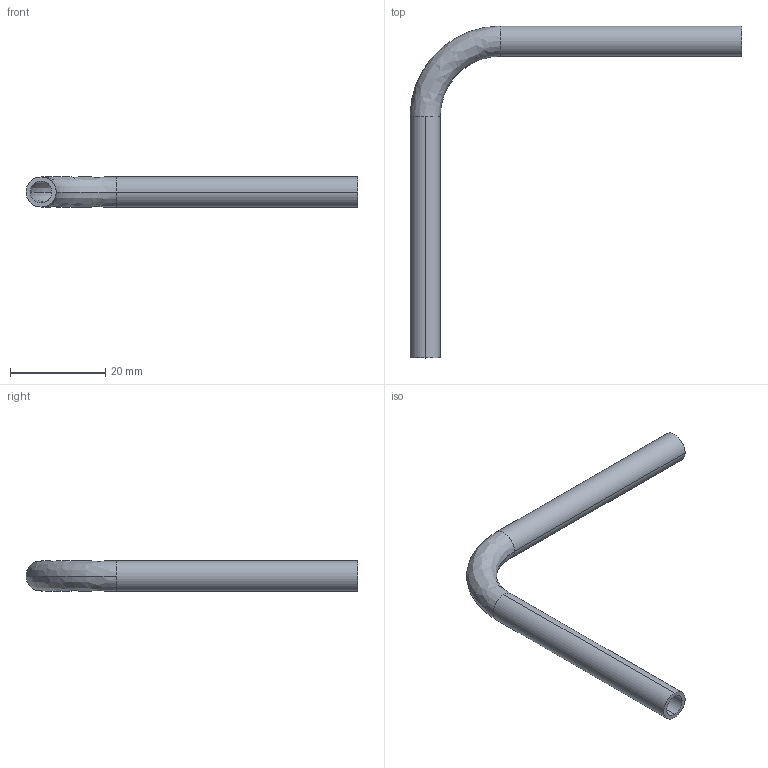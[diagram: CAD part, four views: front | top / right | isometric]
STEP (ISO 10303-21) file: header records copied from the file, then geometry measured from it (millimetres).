
FILE_DESCRIPTION (( 'STEP AP214' ), '1' );
FILE_NAME ('TE2S6L.25-.._.STEP', '2016-05-22T09:45:32', ( 'eran' ), ( '' ), 'SwSTEP 2.0', 'SolidWorks 2016', '' );
FILE_SCHEMA (( 'AUTOMOTIVE_DESIGN' ));
Length unit declared in the file: millimetre
Products named in the file (1): TE2S6L.25-.._
Bounding box: 69.88 x 69.88 x 6.35 mm (x, y, z)
Volume: 1932.3 mm3; surface area: 4372.9 mm2
Topology: 1 solids, 1 shells, 14 faces, 32 edges, 20 vertices
Faces by surface type: cylinder 8, bspline 4, plane 2
Entity records: 490 total; most frequent: CARTESIAN_POINT 127, DIRECTION 78, ORIENTED_EDGE 64, AXIS2_PLACEMENT_3D 35, EDGE_CURVE 32, CIRCLE 24, VERTEX_POINT 20, EDGE_LOOP 16
